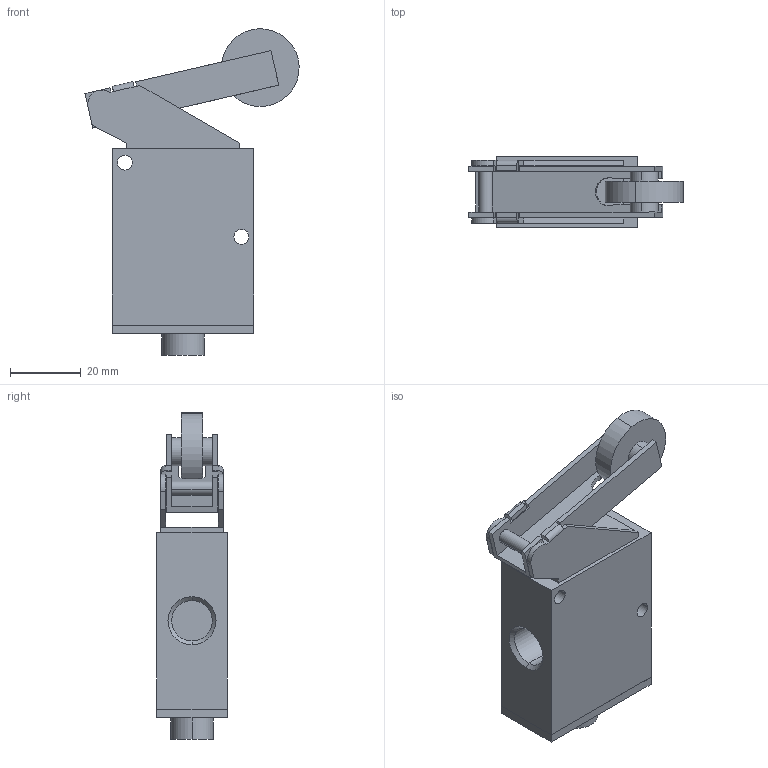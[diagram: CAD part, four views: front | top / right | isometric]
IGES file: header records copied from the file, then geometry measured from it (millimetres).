
Global section: file name: No Iges File Name specified; native system: AutoDesk Inventor R11.0; preprocessor: AutoDesk Inventor Iges Exporter R11.0; author: No Author specified; organization: No Organization specified; date: 20061219.113255; units: millimetre
Bounding box: 60.6 x 20 x 92.33 mm (x, y, z)
Volume: 45781.8 mm3; surface area: 17616.1 mm2
Topology: 3 solids, 3 shells, 111 faces, 264 edges, 168 vertices
Faces by surface type: plane 65, bspline 27, cylinder 14, revolution 5
